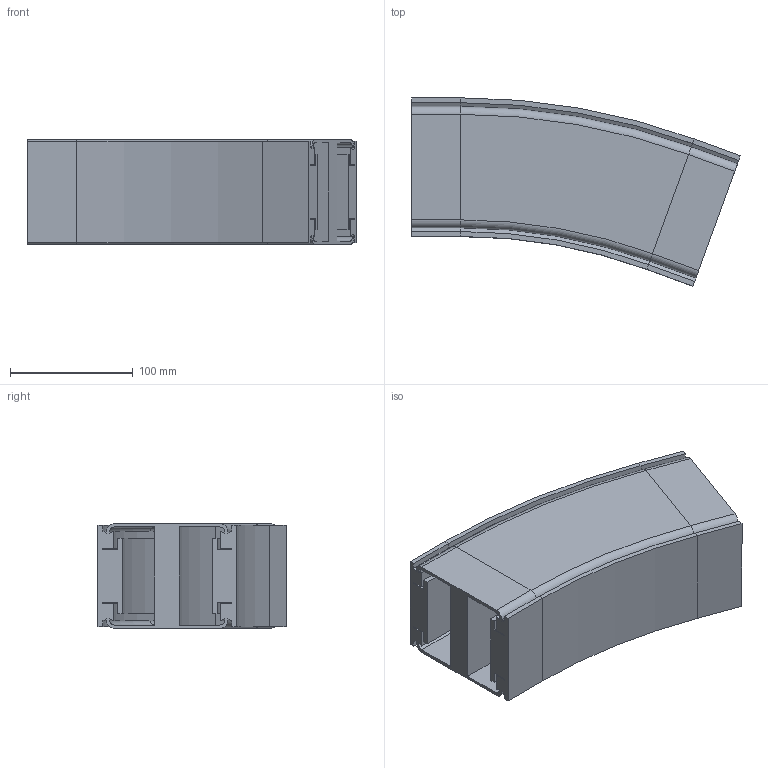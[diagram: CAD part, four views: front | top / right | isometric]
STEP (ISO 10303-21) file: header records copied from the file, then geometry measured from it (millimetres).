
FILE_DESCRIPTION (( 'STEP AP214' ), '1' );
FILE_NAME ('VC.85 Verticale bochtsectie.R500 20.STEP', '2017-02-08T08:13:11', ( '' ), ( '' ), 'SwSTEP 2.0', 'SolidWorks 2016', '' );
FILE_SCHEMA (( 'AUTOMOTIVE_DESIGN' ));
Length unit declared in the file: millimetre
Products named in the file (1): VC.85 Verticale bochtsectie.R500 20
Bounding box: 267.92 x 153.43 x 85 mm (x, y, z)
Volume: 1213391.6 mm3; surface area: 286646 mm2
Topology: 1 solids, 1 shells, 206 faces, 476 edges, 272 vertices
Faces by surface type: plane 144, cylinder 46, cone 8, torus 8
Entity records: 5674 total; most frequent: DIRECTION 990, CARTESIAN_POINT 955, ORIENTED_EDGE 952, EDGE_CURVE 476, LINE 376, VECTOR 376, AXIS2_PLACEMENT_3D 307, VERTEX_POINT 272
